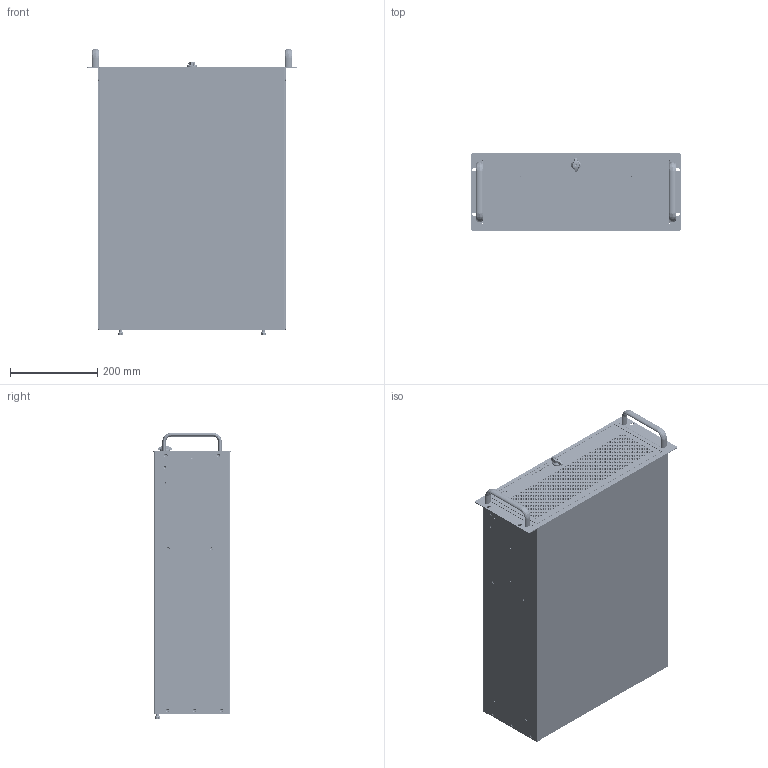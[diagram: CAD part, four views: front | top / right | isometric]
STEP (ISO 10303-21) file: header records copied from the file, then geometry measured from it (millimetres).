
FILE_DESCRIPTION (( 'STEP AP203' ), '1' );
FILE_NAME ('HPC-7442.STEP', '2013-06-18T09:39:28', ( 'ITD.MIS' ), ( '' ), 'SwSTEP 2.0', 'SolidWorks 2012', '' );
FILE_SCHEMA (( 'CONFIG_CONTROL_DESIGN' ));
Products named in the file (1): HPC-7442
Bounding box: 482 x 177 x 656.58 mm (x, y, z)
Volume: 44277843.2 mm3; surface area: 1191607 mm2
Topology: 12 solids, 12 shells, 3511 faces, 10032 edges, 6596 vertices
Faces by surface type: cylinder 2747, plane 495, cone 167, bspline 102
Entity records: 125125 total; most frequent: CARTESIAN_POINT 24368, DIRECTION 22149, ORIENTED_EDGE 20040, EDGE_CURVE 10020, AXIS2_PLACEMENT_3D 9201, VERTEX_POINT 6596, EDGE_LOOP 6064, CIRCLE 5791
